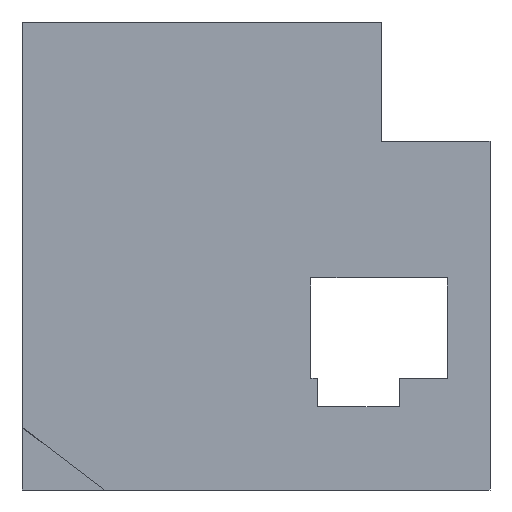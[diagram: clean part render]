
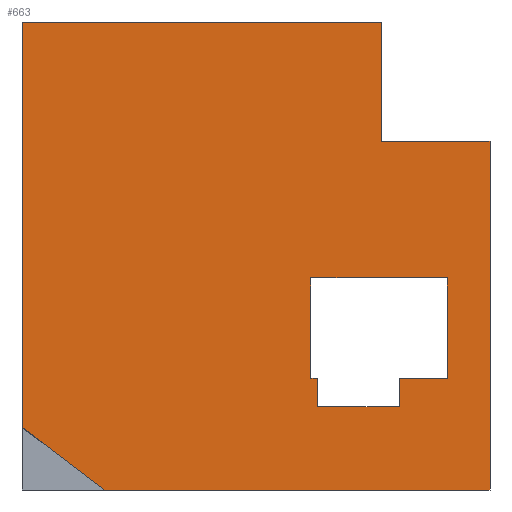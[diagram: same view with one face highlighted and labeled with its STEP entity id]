
A CAD part, left-side view. The second image highlights one B-rep face of the part: STEP entity #663.
In plain terms, the highlighted planar face has unit normal (-1, 0, 0).
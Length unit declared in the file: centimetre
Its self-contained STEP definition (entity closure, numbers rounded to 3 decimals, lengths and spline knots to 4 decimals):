
#1 = CARTESIAN_POINT ( 'NONE',  ( 0., 231.0094, 745.0282 ) ) ;
#2 = CARTESIAN_POINT ( 'NONE',  ( 0., 1000., 0. ) ) ;
#10 = LINE ( 'NONE', #165, #169 ) ;
#13 = CARTESIAN_POINT ( 'NONE',  ( 0., 193.6642, 177.7702 ) ) ;
#18 = ORIENTED_EDGE ( 'NONE', *, *, #53, .T. ) ;
#20 = CARTESIAN_POINT ( 'NONE',  ( 0., 90.9563, 238.8716 ) ) ;
#44 = DIRECTION ( 'NONE',  ( 0., 0., 1. ) ) ;
#51 = ORIENTED_EDGE ( 'NONE', *, *, #773, .T. ) ;
#53 = EDGE_CURVE ( 'NONE', #339, #678, #681, .T. ) ;
#60 = VECTOR ( 'NONE', #440, 100. ) ;
#64 = DIRECTION ( 'NONE',  ( 0., 1., 0. ) ) ;
#81 = EDGE_CURVE ( 'NONE', #810, #339, #932, .T. ) ;
#91 = CARTESIAN_POINT ( 'NONE',  ( 0., 823.8533, 0. ) ) ;
#98 = ORIENTED_EDGE ( 'NONE', *, *, #81, .T. ) ;
#103 = VERTEX_POINT ( 'NONE', #170 ) ;
#105 = CARTESIAN_POINT ( 'NONE',  ( 0., 0., 745.0282 ) ) ;
#110 = DIRECTION ( 'NONE',  ( 0., 1., 0. ) ) ;
#116 = CARTESIAN_POINT ( 'NONE',  ( 0., 382.695, 238.8716 ) ) ;
#134 = ORIENTED_EDGE ( 'NONE', *, *, #890, .T. ) ;
#135 = EDGE_CURVE ( 'NONE', #836, #749, #472, .T. ) ;
#137 = CARTESIAN_POINT ( 'NONE',  ( 0., 1000., 1000. ) ) ;
#140 = VECTOR ( 'NONE', #642, 100. ) ;
#165 = CARTESIAN_POINT ( 'NONE',  ( 0., 823.8533, 0. ) ) ;
#168 = ORIENTED_EDGE ( 'NONE', *, *, #930, .F. ) ;
#169 = VECTOR ( 'NONE', #316, 100. ) ;
#170 = CARTESIAN_POINT ( 'NONE',  ( 0., 231.0094, 745.0282 ) ) ;
#174 = ORIENTED_EDGE ( 'NONE', *, *, #560, .F. ) ;
#179 = CARTESIAN_POINT ( 'NONE',  ( 0., 1000., 1000. ) ) ;
#183 = LINE ( 'NONE', #201, #752 ) ;
#201 = CARTESIAN_POINT ( 'NONE',  ( 0., 0., 1000. ) ) ;
#202 = VERTEX_POINT ( 'NONE', #468 ) ;
#204 = VECTOR ( 'NONE', #315, 100. ) ;
#218 = VERTEX_POINT ( 'NONE', #568 ) ;
#219 = FACE_BOUND ( 'NONE', #961, .T. ) ;
#227 = EDGE_CURVE ( 'NONE', #935, #202, #720, .T. ) ;
#229 = DIRECTION ( 'NONE',  ( 0., 0., 1. ) ) ;
#240 = DIRECTION ( 'NONE',  ( 0., 0., -1. ) ) ;
#245 = CARTESIAN_POINT ( 'NONE',  ( 0., 193.6642, 177.7702 ) ) ;
#248 = VECTOR ( 'NONE', #44, 100. ) ;
#254 = LINE ( 'NONE', #179, #882 ) ;
#268 = VERTEX_POINT ( 'NONE', #105 ) ;
#277 = ORIENTED_EDGE ( 'NONE', *, *, #917, .F. ) ;
#286 = LINE ( 'NONE', #116, #248 ) ;
#289 = ORIENTED_EDGE ( 'NONE', *, *, #135, .T. ) ;
#305 = EDGE_CURVE ( 'NONE', #103, #742, #325, .T. ) ;
#309 = LINE ( 'NONE', #700, #716 ) ;
#315 = DIRECTION ( 'NONE',  ( 0., 0., 1. ) ) ;
#316 = DIRECTION ( 'NONE',  ( 0., 0.796, 0.605 ) ) ;
#321 = EDGE_CURVE ( 'NONE', #658, #793, #309, .T. ) ;
#325 = LINE ( 'NONE', #1, #204 ) ;
#339 = VERTEX_POINT ( 'NONE', #13 ) ;
#356 = ORIENTED_EDGE ( 'NONE', *, *, #522, .T. ) ;
#362 = DIRECTION ( 'NONE',  ( 0., -1., 0. ) ) ;
#371 = FACE_OUTER_BOUND ( 'NONE', #576, .T. ) ;
#375 = CARTESIAN_POINT ( 'NONE',  ( 0., 90.9563, 238.8716 ) ) ;
#393 = AXIS2_PLACEMENT_3D ( 'NONE', #137, #532, #519 ) ;
#401 = DIRECTION ( 'NONE',  ( 0., 0., -1. ) ) ;
#411 = VECTOR ( 'NONE', #229, 100. ) ;
#440 = DIRECTION ( 'NONE',  ( 0., 1., 0. ) ) ;
#441 = ORIENTED_EDGE ( 'NONE', *, *, #515, .T. ) ;
#464 = CARTESIAN_POINT ( 'NONE',  ( 0., 193.6642, 238.8716 ) ) ;
#468 = CARTESIAN_POINT ( 'NONE',  ( 0., 382.695, 238.8716 ) ) ;
#472 = LINE ( 'NONE', #792, #967 ) ;
#479 = ORIENTED_EDGE ( 'NONE', *, *, #866, .T. ) ;
#510 = VECTOR ( 'NONE', #240, 100. ) ;
#515 = EDGE_CURVE ( 'NONE', #737, #810, #892, .T. ) ;
#519 = DIRECTION ( 'NONE',  ( 0., 0., -1. ) ) ;
#522 = EDGE_CURVE ( 'NONE', #202, #658, #286, .T. ) ;
#532 = DIRECTION ( 'NONE',  ( 1., 0., 0. ) ) ;
#535 = EDGE_CURVE ( 'NONE', #268, #218, #183, .T. ) ;
#536 = CARTESIAN_POINT ( 'NONE',  ( 0., 1000., 133.9706 ) ) ;
#545 = LINE ( 'NONE', #2, #913 ) ;
#549 = DIRECTION ( 'NONE',  ( 0., -1., 0. ) ) ;
#560 = EDGE_CURVE ( 'NONE', #103, #268, #949, .T. ) ;
#567 = DIRECTION ( 'NONE',  ( 0., -1., 0. ) ) ;
#568 = CARTESIAN_POINT ( 'NONE',  ( 0., 0., 0. ) ) ;
#571 = CARTESIAN_POINT ( 'NONE',  ( 0., 90.9563, 238.8716 ) ) ;
#572 = VECTOR ( 'NONE', #110, 100. ) ;
#576 = EDGE_LOOP ( 'NONE', ( #289, #168, #479, #645, #174, #807, #277 ) ) ;
#602 = CARTESIAN_POINT ( 'NONE',  ( 0., 368.6817, 177.7702 ) ) ;
#623 = LINE ( 'NONE', #20, #140 ) ;
#642 = DIRECTION ( 'NONE',  ( 0., 0., -1. ) ) ;
#644 = ORIENTED_EDGE ( 'NONE', *, *, #321, .T. ) ;
#645 = ORIENTED_EDGE ( 'NONE', *, *, #535, .F. ) ;
#648 = CARTESIAN_POINT ( 'NONE',  ( 0., 90.9563, 238.8716 ) ) ;
#658 = VERTEX_POINT ( 'NONE', #676 ) ;
#663 = ADVANCED_FACE ( 'NONE', ( #219, #371 ), #901, .F. ) ;
#676 = CARTESIAN_POINT ( 'NONE',  ( 0., 382.695, 453.0257 ) ) ;
#678 = VERTEX_POINT ( 'NONE', #827 ) ;
#681 = LINE ( 'NONE', #916, #778 ) ;
#687 = CARTESIAN_POINT ( 'NONE',  ( 0., 90.9563, 453.0257 ) ) ;
#700 = CARTESIAN_POINT ( 'NONE',  ( 0., 90.9563, 453.0257 ) ) ;
#702 = ORIENTED_EDGE ( 'NONE', *, *, #227, .T. ) ;
#716 = VECTOR ( 'NONE', #549, 100. ) ;
#720 = LINE ( 'NONE', #648, #572 ) ;
#737 = VERTEX_POINT ( 'NONE', #375 ) ;
#742 = VERTEX_POINT ( 'NONE', #763 ) ;
#749 = VERTEX_POINT ( 'NONE', #536 ) ;
#752 = VECTOR ( 'NONE', #811, 100. ) ;
#763 = CARTESIAN_POINT ( 'NONE',  ( 0., 231.0094, 1000. ) ) ;
#773 = EDGE_CURVE ( 'NONE', #678, #935, #841, .T. ) ;
#778 = VECTOR ( 'NONE', #64, 100. ) ;
#790 = DIRECTION ( 'NONE',  ( 0., -1., 0. ) ) ;
#792 = CARTESIAN_POINT ( 'NONE',  ( 0., 1000., 1000. ) ) ;
#793 = VERTEX_POINT ( 'NONE', #687 ) ;
#795 = CARTESIAN_POINT ( 'NONE',  ( 0., 368.6817, 238.8716 ) ) ;
#801 = CARTESIAN_POINT ( 'NONE',  ( 0., 231.0094, 745.0282 ) ) ;
#807 = ORIENTED_EDGE ( 'NONE', *, *, #305, .T. ) ;
#810 = VERTEX_POINT ( 'NONE', #464 ) ;
#811 = DIRECTION ( 'NONE',  ( 0., 0., -1. ) ) ;
#827 = CARTESIAN_POINT ( 'NONE',  ( 0., 368.6817, 177.7702 ) ) ;
#836 = VERTEX_POINT ( 'NONE', #910 ) ;
#841 = LINE ( 'NONE', #602, #411 ) ;
#866 = EDGE_CURVE ( 'NONE', #879, #218, #545, .T. ) ;
#879 = VERTEX_POINT ( 'NONE', #91 ) ;
#882 = VECTOR ( 'NONE', #790, 100. ) ;
#890 = EDGE_CURVE ( 'NONE', #793, #737, #623, .T. ) ;
#892 = LINE ( 'NONE', #571, #60 ) ;
#901 = PLANE ( 'NONE',  #393 ) ;
#910 = CARTESIAN_POINT ( 'NONE',  ( 0., 1000., 1000. ) ) ;
#913 = VECTOR ( 'NONE', #567, 100. ) ;
#916 = CARTESIAN_POINT ( 'NONE',  ( 0., 193.6642, 177.7702 ) ) ;
#917 = EDGE_CURVE ( 'NONE', #836, #742, #254, .T. ) ;
#930 = EDGE_CURVE ( 'NONE', #879, #749, #10, .T. ) ;
#932 = LINE ( 'NONE', #245, #510 ) ;
#935 = VERTEX_POINT ( 'NONE', #795 ) ;
#949 = LINE ( 'NONE', #801, #953 ) ;
#953 = VECTOR ( 'NONE', #362, 100. ) ;
#961 = EDGE_LOOP ( 'NONE', ( #441, #98, #18, #51, #702, #356, #644, #134 ) ) ;
#967 = VECTOR ( 'NONE', #401, 100. ) ;
